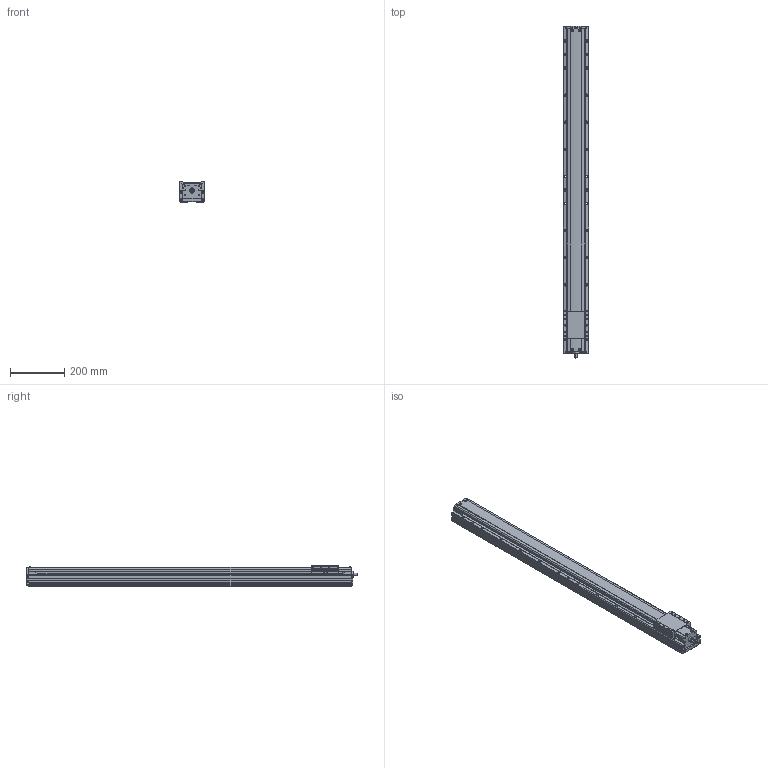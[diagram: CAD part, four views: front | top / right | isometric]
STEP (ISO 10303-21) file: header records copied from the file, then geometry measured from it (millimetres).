
FILE_DESCRIPTION(('STEP AP214'),'1');
FILE_NAME('Z:/Web/3D/PSA95/STP/PSA95-1000 (3D)/PSA95ㅁㅁ-1000.stp','2014-07-03T01:00:07',(' '),(' '),'Spatial InterOp 3D',' ',' ');
FILE_SCHEMA(('automotive_design'));
Length unit declared in the file: millimetre
Products named in the file (18): BASE; RRCV; 스크루 : Round - M4.0 x 10.0; 너트 : Square - M10.0 x 220.7419; RR1500; FRCV-090; 스크루 : Round - M4.0 x 6.0; SLBL-PA90
Bounding box: 95 x 1226 x 74 mm (x, y, z)
Volume: 6424274.3 mm3; surface area: 614324.8 mm2
Topology: 18 solids, 18 shells, 1899 faces, 5142 edges, 3270 vertices
Faces by surface type: plane 1019, cylinder 615, cone 197, sphere 30, bspline 24, torus 14
Entity records: 76975 total; most frequent: CARTESIAN_POINT 13492, DIRECTION 10030, ORIENTED_EDGE 10004, EDGE_CURVE 5002, LINE 3386, VECTOR 3386, AXIS2_PLACEMENT_3D 3322, VERTEX_POINT 3270
